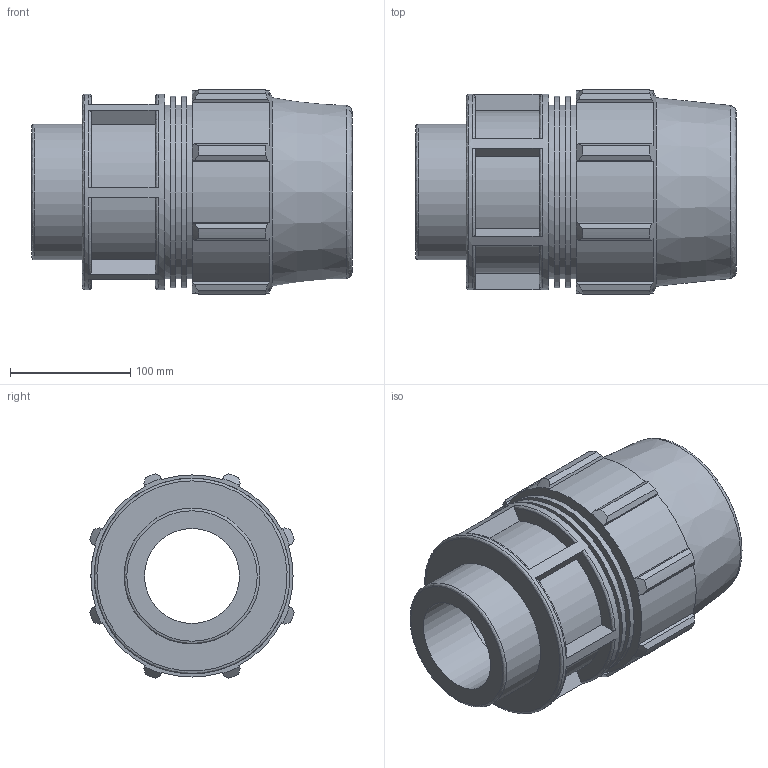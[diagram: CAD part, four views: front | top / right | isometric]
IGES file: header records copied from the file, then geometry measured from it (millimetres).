
Global section: file name: 870200110040_180200110040_840206110040.ipt; native system: Autodesk Inventor 2015; preprocessor: unknown; author: KIM; date: 20180325.201147; units: millimetre
Bounding box: 267 x 170.31 x 170.31 mm (x, y, z)
Volume: 2331401.4 mm3; surface area: 287935.1 mm2
Topology: 1 solids, 1 shells, 125 faces, 333 edges, 224 vertices
Faces by surface type: plane 67, cylinder 29, revolution 19, cone 10
Full cylindrical faces by diameter (mm): 113.03 x1, 144.8 x3, 159.642 x2, 162.9 x1
